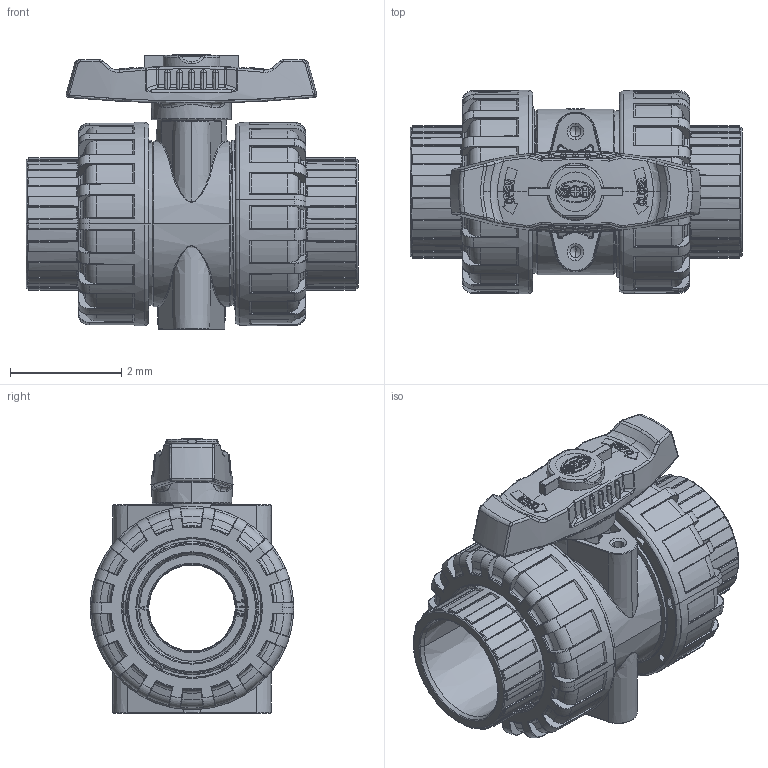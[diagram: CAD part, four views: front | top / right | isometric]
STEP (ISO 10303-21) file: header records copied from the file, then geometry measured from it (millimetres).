
FILE_DESCRIPTION(('Open CASCADE Model'),'2;1');
FILE_NAME('Open CASCADE Shape Model','2022-07-18T07:23:56',('Author'),( 'Open CASCADE'),'Open CASCADE STEP processor 7.3','Open CASCADE 7.3' ,'Unknown');
FILE_SCHEMA(('AUTOMOTIVE_DESIGN { 1 0 10303 214 1 1 1 1 }'));
Length unit declared in the file: millimetre
Products named in the file (19): Open CASCADE STEP translator 7.3 1; Open CASCADE STEP translator 7.3 1.1; Open CASCADE STEP translator 7.3 1.2; Open CASCADE STEP translator 7.3 1.3; Open CASCADE STEP translator 7.3 1.4; Open CASCADE STEP translator 7.3 1.5; Open CASCADE STEP translator 7.3 1.6; Open CASCADE STEP translator 7.3 1.7; Open CASCADE STEP translator 7.3 1.8; Open CASCADE STEP translator 7.3 1.9; Open CASCADE STEP translator 7.3 1.10; Open CASCADE STEP translator 7.3 1.11; Open CASCADE STEP translator 7.3 1.12; Open CASCADE STEP translator 7.3 1.13; Open CASCADE STEP translator 7.3 1.14; Open CASCADE STEP translator 7.3 1.15; Open CASCADE STEP translator 7.3 1.16; Open CASCADE STEP translator 7.3 1.17; Open CASCADE STEP translator 7.3 1.18
Assembly tree (18 placements, depth 2):
  Open CASCADE STEP translator 7.3 1
    Open CASCADE STEP translator 7.3 1.1
    Open CASCADE STEP translator 7.3 1.2
    Open CASCADE STEP translator 7.3 1.3
    Open CASCADE STEP translator 7.3 1.4
    Open CASCADE STEP translator 7.3 1.5
    Open CASCADE STEP translator 7.3 1.6
    Open CASCADE STEP translator 7.3 1.7
    Open CASCADE STEP translator 7.3 1.8
    Open CASCADE STEP translator 7.3 1.9
    Open CASCADE STEP translator 7.3 1.10
    Open CASCADE STEP translator 7.3 1.11
    Open CASCADE STEP translator 7.3 1.12
    Open CASCADE STEP translator 7.3 1.13
    Open CASCADE STEP translator 7.3 1.14
    Open CASCADE STEP translator 7.3 1.15
    Open CASCADE STEP translator 7.3 1.16
    Open CASCADE STEP translator 7.3 1.17
    Open CASCADE STEP translator 7.3 1.18
Bounding box: 5.97 x 3.66 x 4.93 mm (x, y, z)
Volume: 32.5 mm3; surface area: 338.7 mm2
Topology: 18 solids, 18 shells, 2961 faces, 7510 edges, 4606 vertices
Faces by surface type: plane 743, bspline 686, torus 469, cone 438, cylinder 436, sphere 150, revolution 39
Entity records: 358631 total; most frequent: CARTESIAN_POINT 229436, DIRECTION 18034, ORIENTED_EDGE 14828, PCURVE 14828, DEFINITIONAL_REPRESENTATION 14828, B_SPLINE_CURVE_WITH_KNOTS 10699, LINE 7906, VECTOR 7906
